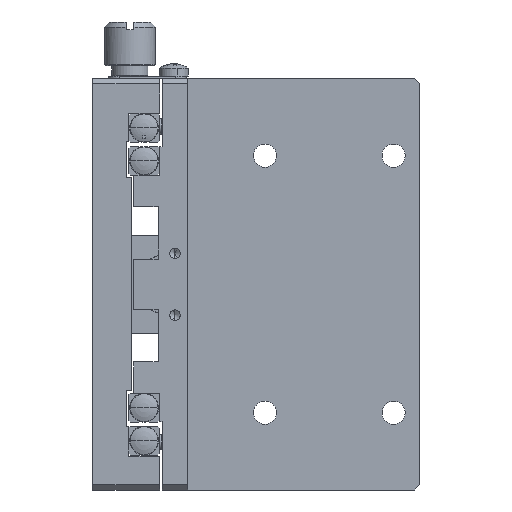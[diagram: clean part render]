
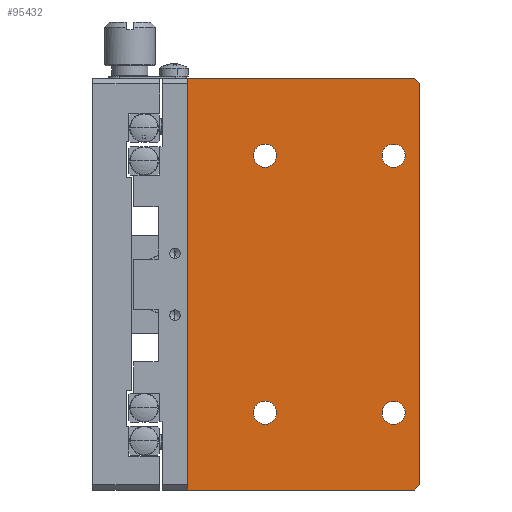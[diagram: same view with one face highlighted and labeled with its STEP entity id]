
A CAD part, front view. The second image highlights one B-rep face of the part: STEP entity #95432.
In plain terms, the highlighted planar face has unit normal (0, -1, 0).
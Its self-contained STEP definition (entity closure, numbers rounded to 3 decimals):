
#1305 = VERTEX_POINT ( 'NONE', #51305 ) ;
#1577 = DIRECTION ( 'NONE',  ( 0., 1., 0. ) ) ;
#4469 = ORIENTED_EDGE ( 'NONE', *, *, #8936, .F. ) ;
#4622 = CARTESIAN_POINT ( 'NONE',  ( 46.75, 0., -25. ) ) ;
#5466 = CIRCLE ( 'NONE', #12437, 2.25 ) ;
#5511 = EDGE_CURVE ( 'NONE', #103169, #41404, #39464, .T. ) ;
#6769 = VECTOR ( 'NONE', #71196, 1000. ) ;
#6785 = AXIS2_PLACEMENT_3D ( 'NONE', #58989, #1577, #34956 ) ;
#7293 = CARTESIAN_POINT ( 'NONE',  ( 46.75, 0., -27.25 ) ) ;
#8936 = EDGE_CURVE ( 'NONE', #15182, #54665, #80933, .T. ) ;
#9425 = CARTESIAN_POINT ( 'NONE',  ( 21.75, 0., -25. ) ) ;
#9870 = VERTEX_POINT ( 'NONE', #7293 ) ;
#10393 = EDGE_CURVE ( 'NONE', #59112, #39368, #103726, .T. ) ;
#10856 = ORIENTED_EDGE ( 'NONE', *, *, #10393, .T. ) ;
#10891 = VECTOR ( 'NONE', #55827, 1000. ) ;
#10947 = ORIENTED_EDGE ( 'NONE', *, *, #5511, .T. ) ;
#11125 = VECTOR ( 'NONE', #36582, 1000. ) ;
#12168 = CARTESIAN_POINT ( 'NONE',  ( 21.75, 0., 25. ) ) ;
#12185 = DIRECTION ( 'NONE',  ( 0., 1., 0. ) ) ;
#12411 = CARTESIAN_POINT ( 'NONE',  ( 6.75, 0., 40. ) ) ;
#12437 = AXIS2_PLACEMENT_3D ( 'NONE', #21030, #70672, #71755 ) ;
#12766 = LINE ( 'NONE', #105589, #6769 ) ;
#14315 = LINE ( 'NONE', #47657, #51492 ) ;
#15182 = VERTEX_POINT ( 'NONE', #60493 ) ;
#18019 = FACE_BOUND ( 'NONE', #32324, .T. ) ;
#19000 = VERTEX_POINT ( 'NONE', #86184 ) ;
#19095 = ORIENTED_EDGE ( 'NONE', *, *, #53931, .F. ) ;
#20386 = DIRECTION ( 'NONE',  ( 0., 0., 1. ) ) ;
#21030 = CARTESIAN_POINT ( 'NONE',  ( 46.75, 0., 25. ) ) ;
#22305 = CIRCLE ( 'NONE', #100791, 2.25 ) ;
#24312 = ORIENTED_EDGE ( 'NONE', *, *, #45747, .T. ) ;
#25684 = FACE_BOUND ( 'NONE', #40419, .T. ) ;
#25911 = CARTESIAN_POINT ( 'NONE',  ( 51.75, 0., -39. ) ) ;
#26845 = DIRECTION ( 'NONE',  ( 0., 1., 0. ) ) ;
#28340 = ORIENTED_EDGE ( 'NONE', *, *, #67062, .T. ) ;
#29155 = CARTESIAN_POINT ( 'NONE',  ( 46.75, 0., 27.25 ) ) ;
#29200 = CARTESIAN_POINT ( 'NONE',  ( 21.75, 0., 25. ) ) ;
#30037 = CARTESIAN_POINT ( 'NONE',  ( 46.75, 0., 22.75 ) ) ;
#30213 = CARTESIAN_POINT ( 'NONE',  ( 46.75, 0., 25. ) ) ;
#30665 = ORIENTED_EDGE ( 'NONE', *, *, #31717, .T. ) ;
#31717 = EDGE_CURVE ( 'NONE', #39368, #1305, #34102, .T. ) ;
#32324 = EDGE_LOOP ( 'NONE', ( #85150, #36062 ) ) ;
#32811 = EDGE_CURVE ( 'NONE', #102435, #54665, #12766, .T. ) ;
#33354 = FACE_BOUND ( 'NONE', #77956, .T. ) ;
#34028 = CIRCLE ( 'NONE', #93277, 2.25 ) ;
#34102 = LINE ( 'NONE', #25911, #69499 ) ;
#34956 = DIRECTION ( 'NONE',  ( 0., 0., 1. ) ) ;
#35744 = VECTOR ( 'NONE', #45763, 1000. ) ;
#36062 = ORIENTED_EDGE ( 'NONE', *, *, #37050, .T. ) ;
#36142 = CARTESIAN_POINT ( 'NONE',  ( 21.75, 0., -25. ) ) ;
#36582 = DIRECTION ( 'NONE',  ( 1., 0., 0. ) ) ;
#37050 = EDGE_CURVE ( 'NONE', #9870, #42842, #93872, .T. ) ;
#39368 = VERTEX_POINT ( 'NONE', #39559 ) ;
#39464 = CIRCLE ( 'NONE', #46590, 2.25 ) ;
#39559 = CARTESIAN_POINT ( 'NONE',  ( 50.75, 0., -40. ) ) ;
#40419 = EDGE_LOOP ( 'NONE', ( #86754, #24312 ) ) ;
#41257 = CARTESIAN_POINT ( 'NONE',  ( 21.75, 0., -27.25 ) ) ;
#41404 = VERTEX_POINT ( 'NONE', #41257 ) ;
#41546 = PLANE ( 'NONE',  #6785 ) ;
#42842 = VERTEX_POINT ( 'NONE', #99028 ) ;
#43772 = CARTESIAN_POINT ( 'NONE',  ( 51.75, 0., 39. ) ) ;
#44149 = LINE ( 'NONE', #12411, #35744 ) ;
#44554 = DIRECTION ( 'NONE',  ( 0., 0., 1. ) ) ;
#44872 = EDGE_CURVE ( 'NONE', #88647, #19000, #76904, .T. ) ;
#45747 = EDGE_CURVE ( 'NONE', #69320, #99070, #5466, .T. ) ;
#45763 = DIRECTION ( 'NONE',  ( 0., 0., -1. ) ) ;
#46590 = AXIS2_PLACEMENT_3D ( 'NONE', #36142, #26845, #102214 ) ;
#46800 = AXIS2_PLACEMENT_3D ( 'NONE', #4622, #68603, #78966 ) ;
#47657 = CARTESIAN_POINT ( 'NONE',  ( 51.75, 0., 40. ) ) ;
#49117 = CARTESIAN_POINT ( 'NONE',  ( 21.75, 0., 22.75 ) ) ;
#49126 = DIRECTION ( 'NONE',  ( 0., 0., 1. ) ) ;
#51305 = CARTESIAN_POINT ( 'NONE',  ( 51.75, 0., -39. ) ) ;
#51336 = FACE_BOUND ( 'NONE', #97552, .T. ) ;
#51492 = VECTOR ( 'NONE', #97351, 1000. ) ;
#53388 = EDGE_CURVE ( 'NONE', #19000, #88647, #34028, .T. ) ;
#53692 = DIRECTION ( 'NONE',  ( 0., 0., 1. ) ) ;
#53931 = EDGE_CURVE ( 'NONE', #102435, #1305, #14315, .T. ) ;
#54070 = ORIENTED_EDGE ( 'NONE', *, *, #32811, .T. ) ;
#54665 = VERTEX_POINT ( 'NONE', #58537 ) ;
#54916 = CARTESIAN_POINT ( 'NONE',  ( 21.75, 0., -22.75 ) ) ;
#55827 = DIRECTION ( 'NONE',  ( 1., 0., 0. ) ) ;
#56362 = CIRCLE ( 'NONE', #70294, 2.25 ) ;
#58537 = CARTESIAN_POINT ( 'NONE',  ( 50.75, 0., 40. ) ) ;
#58989 = CARTESIAN_POINT ( 'NONE',  ( 6.75, 0., 40. ) ) ;
#59112 = VERTEX_POINT ( 'NONE', #66195 ) ;
#60493 = CARTESIAN_POINT ( 'NONE',  ( 6.75, 0., 40. ) ) ;
#62404 = CARTESIAN_POINT ( 'NONE',  ( 6.75, 0., 40. ) ) ;
#66195 = CARTESIAN_POINT ( 'NONE',  ( 6.75, 0., -40. ) ) ;
#67062 = EDGE_CURVE ( 'NONE', #15182, #59112, #44149, .T. ) ;
#67394 = DIRECTION ( 'NONE',  ( 0.707, 0., 0.707 ) ) ;
#68111 = ORIENTED_EDGE ( 'NONE', *, *, #44872, .T. ) ;
#68603 = DIRECTION ( 'NONE',  ( 0., 1., 0. ) ) ;
#69320 = VERTEX_POINT ( 'NONE', #30037 ) ;
#69421 = ORIENTED_EDGE ( 'NONE', *, *, #53388, .T. ) ;
#69499 = VECTOR ( 'NONE', #67394, 1000. ) ;
#70294 = AXIS2_PLACEMENT_3D ( 'NONE', #9425, #78806, #53692 ) ;
#70672 = DIRECTION ( 'NONE',  ( 0., 1., 0. ) ) ;
#71196 = DIRECTION ( 'NONE',  ( -0.707, 0., 0.707 ) ) ;
#71755 = DIRECTION ( 'NONE',  ( 0., 0., 1. ) ) ;
#75114 = AXIS2_PLACEMENT_3D ( 'NONE', #29200, #97415, #78883 ) ;
#76448 = FACE_OUTER_BOUND ( 'NONE', #100464, .T. ) ;
#76904 = CIRCLE ( 'NONE', #75114, 2.25 ) ;
#77956 = EDGE_LOOP ( 'NONE', ( #10947, #99915 ) ) ;
#78806 = DIRECTION ( 'NONE',  ( 0., 1., 0. ) ) ;
#78883 = DIRECTION ( 'NONE',  ( 0., 0., 1. ) ) ;
#78966 = DIRECTION ( 'NONE',  ( 0., 0., 1. ) ) ;
#80933 = LINE ( 'NONE', #62404, #10891 ) ;
#85150 = ORIENTED_EDGE ( 'NONE', *, *, #90380, .T. ) ;
#86184 = CARTESIAN_POINT ( 'NONE',  ( 21.75, 0., 27.25 ) ) ;
#86336 = EDGE_CURVE ( 'NONE', #99070, #69320, #95209, .T. ) ;
#86595 = DIRECTION ( 'NONE',  ( 0., 1., 0. ) ) ;
#86754 = ORIENTED_EDGE ( 'NONE', *, *, #86336, .T. ) ;
#88647 = VERTEX_POINT ( 'NONE', #49117 ) ;
#90380 = EDGE_CURVE ( 'NONE', #42842, #9870, #22305, .T. ) ;
#93277 = AXIS2_PLACEMENT_3D ( 'NONE', #12168, #103918, #20386 ) ;
#93872 = CIRCLE ( 'NONE', #46800, 2.25 ) ;
#95209 = CIRCLE ( 'NONE', #98678, 2.25 ) ;
#95432 = ADVANCED_FACE ( 'NONE', ( #18019, #25684, #51336, #33354, #76448 ), #41546, .F. ) ;
#97351 = DIRECTION ( 'NONE',  ( 0., 0., -1. ) ) ;
#97415 = DIRECTION ( 'NONE',  ( 0., 1., 0. ) ) ;
#97552 = EDGE_LOOP ( 'NONE', ( #69421, #68111 ) ) ;
#98678 = AXIS2_PLACEMENT_3D ( 'NONE', #30213, #12185, #49126 ) ;
#99028 = CARTESIAN_POINT ( 'NONE',  ( 46.75, 0., -22.75 ) ) ;
#99070 = VERTEX_POINT ( 'NONE', #29155 ) ;
#99915 = ORIENTED_EDGE ( 'NONE', *, *, #104507, .T. ) ;
#100464 = EDGE_LOOP ( 'NONE', ( #10856, #30665, #19095, #54070, #4469, #28340 ) ) ;
#100791 = AXIS2_PLACEMENT_3D ( 'NONE', #103493, #86595, #44554 ) ;
#102214 = DIRECTION ( 'NONE',  ( 0., 0., 1. ) ) ;
#102435 = VERTEX_POINT ( 'NONE', #43772 ) ;
#103169 = VERTEX_POINT ( 'NONE', #54916 ) ;
#103493 = CARTESIAN_POINT ( 'NONE',  ( 46.75, 0., -25. ) ) ;
#103726 = LINE ( 'NONE', #104274, #11125 ) ;
#103918 = DIRECTION ( 'NONE',  ( 0., 1., 0. ) ) ;
#104274 = CARTESIAN_POINT ( 'NONE',  ( 6.75, 0., -40. ) ) ;
#104507 = EDGE_CURVE ( 'NONE', #41404, #103169, #56362, .T. ) ;
#105589 = CARTESIAN_POINT ( 'NONE',  ( 50.75, 0., 40. ) ) ;
